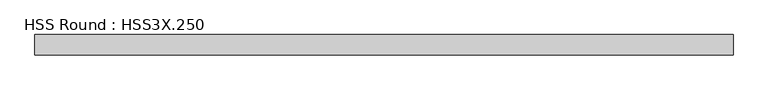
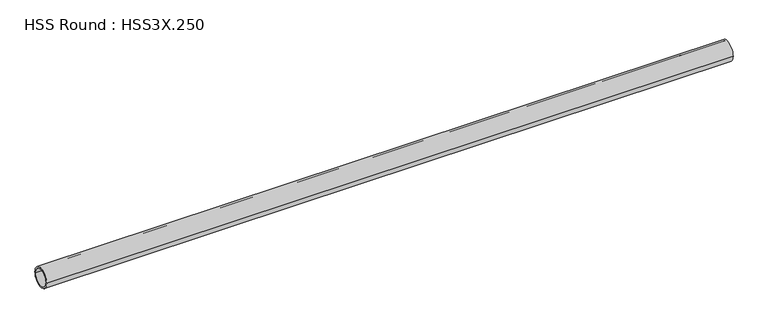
"""IFC4 building model written with IfcOpenShell, lengths in millimetres: member geometry, HSS Round : HSS3X.250."""

from ifc_helpers import new_model, si_unit, point, frame, origin, origin_2d, place, context, project, spatial, circle_curve, trimmed, segment, composite_curve, outline, extrude, source, transform, mapped, element, save


def hss_round_hss3x_250_022b3623(model_context):
    return source(origin(), model_context, "Body", "SweptSolid", [
        extrude(outline(composite_curve([segment(trimmed(circle_curve(origin_2d(), 38.1), [point((-38.1, 0.0))], [point((38.1, 0.0))], False, "CARTESIAN"), True, "CONTINUOUS"), segment(trimmed(circle_curve(origin_2d(), 38.1), [point((38.1, 0.0))], [point((-38.1, 0.0))], False, "CARTESIAN"), True, "CONTINUOUS")], self_intersect=False), holes=[composite_curve([segment(trimmed(circle_curve(origin_2d(), 31.75), [point((31.75, 0.0))], [point((-31.75, 0.0))], True, "CARTESIAN"), True, "CONTINUOUS"), segment(trimmed(circle_curve(origin_2d(), 31.75), [point((-31.75, 0.0))], [point((31.75, 0.0))], True, "CARTESIAN"), True, "CONTINUOUS")], self_intersect=False)]), frame((-1265.1326208, 0.0, 0.0), z_axis=(1.0, 0.0, 0.0), x_axis=(0.0, 1.0, 0.0)), (0.0, 0.0, 1.0), 2588.3370701),
    ])


if __name__ == "__main__":
    model = new_model("IFC4")
    model_context = context("Model", 3, world=origin())
    ifc_project = project(units=[si_unit("LENGTHUNIT", "METRE", prefix="MILLI")], contexts=[model_context])
    site = spatial("IfcSite", under=ifc_project)
    building = spatial("IfcBuilding", under=site)
    placement = place(None, origin())
    hss_round_hss3x_250_shape = hss_round_hss3x_250_022b3623(model_context)
    element("IfcMember", 1, ObjectType="HSS Round : HSS3X.250", at=placement, inside=building, context=model_context, shape_type="MappedRepresentation", body=[
        mapped(hss_round_hss3x_250_shape, transform((0.0, 0.0, 0.0), x_axis=(1.0, 0.0, 0.0), y_axis=(0.0, 1.0, 0.0), z_axis=(0.0, 0.0, 1.0))),
    ])
    save(model, "model.ifc")
